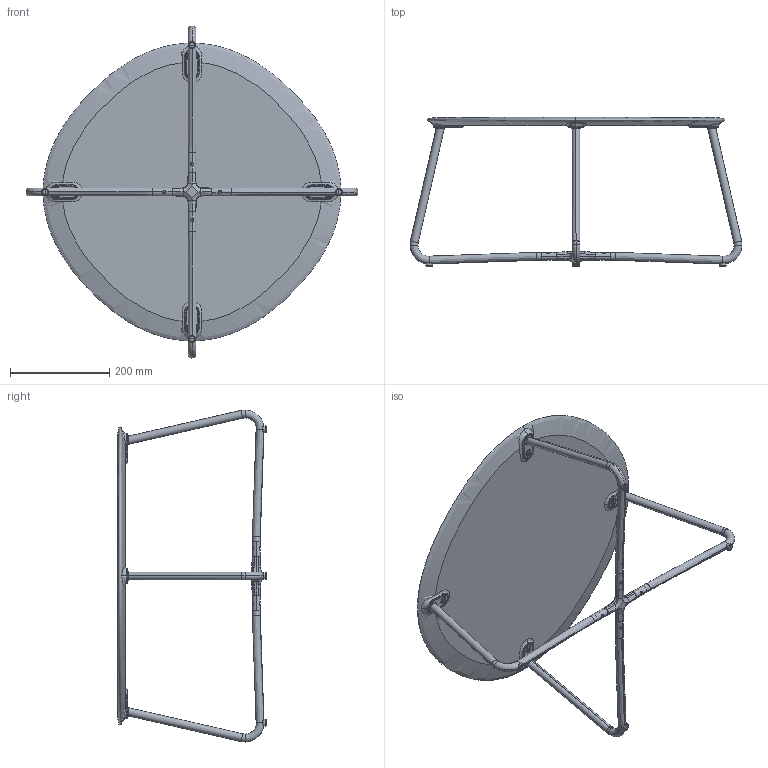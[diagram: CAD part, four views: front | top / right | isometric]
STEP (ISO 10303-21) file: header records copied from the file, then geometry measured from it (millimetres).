
FILE_DESCRIPTION (( 'STEP AP214' ), '1' );
FILE_NAME ('Lily_Lounge_Table.STEP', '2023-08-03T08:31:17', ( '' ), ( '' ), 'SwSTEP 2.0', 'SolidWorks 2023', '' );
FILE_SCHEMA (( 'AUTOMOTIVE_DESIGN' ));
Length unit declared in the file: millimetre
Products named in the file (8): countersunk flat head cross recess screw_iso_ISO 7046-1 - M6 x 16 - Z - 16S; 230802 Lily leg ø600 (35mm move); Lily_Lounge_Table; STAR1416-195S-Ackurat; Lily table top ø60; connector 2; socket set screw flat point_iso_ISO 4026 - M8 x 12-N; Grooved Bushing M6x8.8x13.5
Assembly tree (22 placements, depth 2):
  Lily_Lounge_Table
    Lily table top ø60
    Grooved Bushing M6x8.8x13.5  x4
    countersunk flat head cross recess screw_iso_ISO 7046-1 - M6 x 16 - Z - 16S  x4
    STAR1416-195S-Ackurat  x4
    connector 2
    socket set screw flat point_iso_ISO 4026 - M8 x 12-N  x4
    230802 Lily leg ø600 (35mm move)  x4
Bounding box: 669.09 x 300.09 x 669.09 mm (x, y, z)
Volume: 4396315.4 mm3; surface area: 788084.9 mm2
Topology: 23 solids, 26 shells, 1037 faces, 2666 edges, 1682 vertices
Faces by surface type: cone 304, cylinder 270, plane 211, bspline 140, torus 112
Entity records: 28162 total; most frequent: CARTESIAN_POINT 18287, ORIENTED_EDGE 2264, DIRECTION 1692, EDGE_CURVE 1132, VERTEX_POINT 755, AXIS2_PLACEMENT_3D 691, EDGE_LOOP 447, ADVANCED_FACE 410
